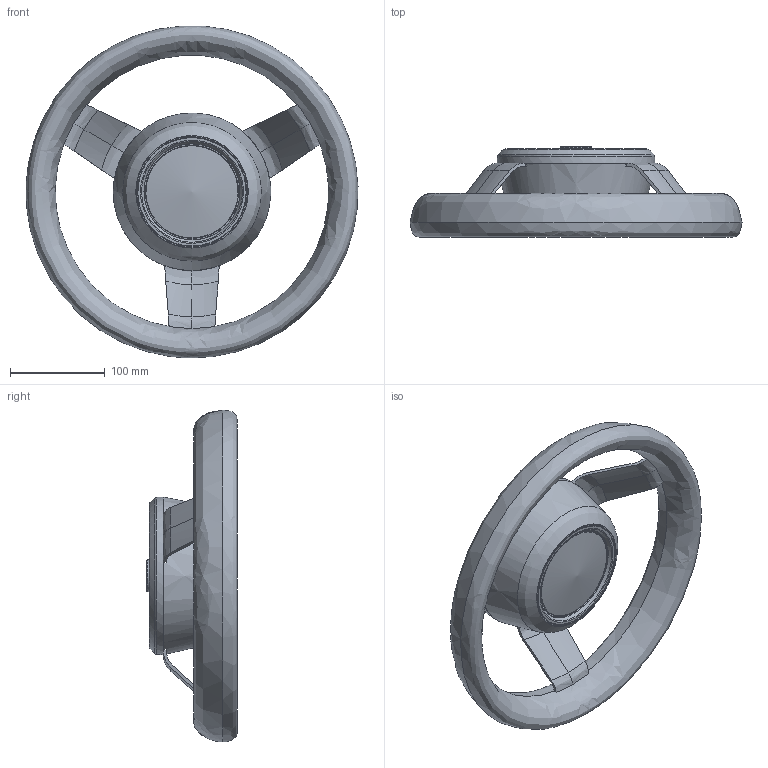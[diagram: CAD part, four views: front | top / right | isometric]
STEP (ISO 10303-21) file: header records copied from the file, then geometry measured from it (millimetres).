
FILE_DESCRIPTION(/* description */ (''),/* implementation_level */ '2;1');
FILE_NAME(/* name */ 'C0WNN7~B',/* time_stamp */ '2021-09-06T09:11:37+02:00',/* author */ (''),/* organization */ (''),/* preprocessor_version */ 'ST-DEVELOPER v16.5',/* originating_system */ '',/* authorisation */ '');
FILE_SCHEMA (('AUTOMOTIVE_DESIGN'));
Length unit declared in the file: millimetre
Products named in the file (1): Document
Bounding box: 349.79 x 95.5 x 349.64 mm (x, y, z)
Volume: 1087041.8 mm3; surface area: 223429.7 mm2
Topology: 1 solids, 9 shells, 76 faces, 207 edges, 133 vertices
Faces by surface type: bspline 67, plane 5, cylinder 4
Full cylindrical faces by diameter (mm): 36 x1, 114 x1
Entity records: 4633 total; most frequent: CARTESIAN_POINT 3465, ORIENTED_EDGE 348, EDGE_CURVE 207, VERTEX_POINT 133, B_SPLINE_CURVE_WITH_KNOTS 90, EDGE_LOOP 77, ADVANCED_FACE 76, FACE_OUTER_BOUND 76
